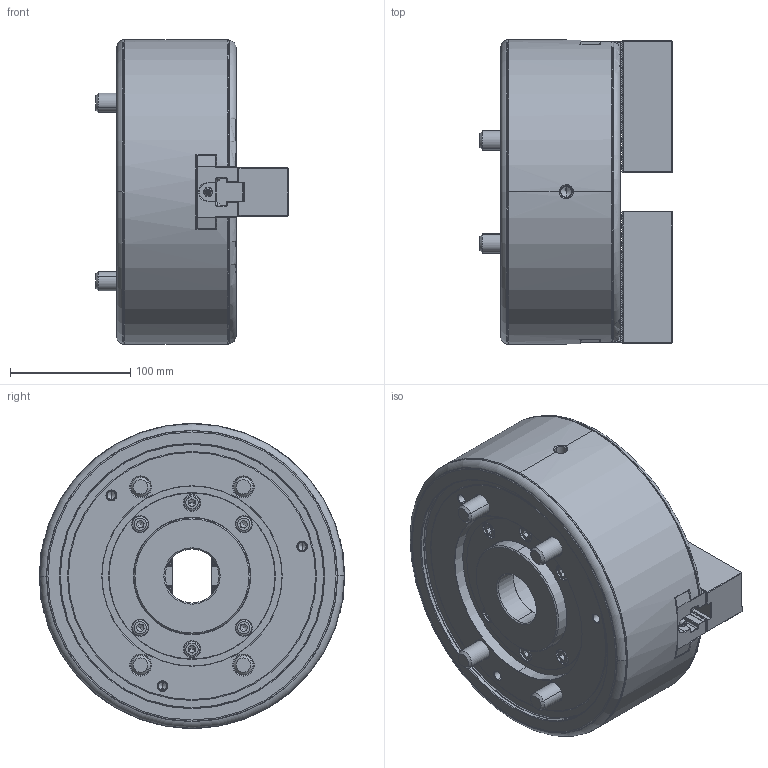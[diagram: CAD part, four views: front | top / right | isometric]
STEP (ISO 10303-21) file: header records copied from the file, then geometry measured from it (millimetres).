
FILE_DESCRIPTION (( 'STEP AP203' ), '1' );
FILE_NAME ('DEV-BRT10-HCL.STEP', '2024-03-12T08:26:55', ( '' ), ( '' ), 'SwSTEP 2.0', 'SolidWorks 2022', '' );
FILE_SCHEMA (( 'CONFIG_CONTROL_DESIGN' ));
Length unit declared in the file: millimetre
Products named in the file (9): BR10-Nishi02 ドローナット_ﾃﾞﾌｫﾙﾄ(外観用); DEV-BRT10-HCL; 61P848284-0(SJ10B1) 61P314663-3(SJ10A1T) ソフトジョー_]SJ10A1T-ﾃﾞﾌｫﾙﾄ-Design; Bアナツキボタン M6×10_デフォルト; BR10-Nishi05 Tナット_61P417262-1 B-210 Tﾅｯﾄ-ﾃﾞﾌｫﾙﾄ; Part3^DEV-BRT10-クミタテ; 61P806167-0(BBT210) 61P367863-0(BB210) カバー_BBT210-ﾃﾞﾌｫﾙﾄ; Bアナツキ M12×30; Bアナツキ M16×100・M16×120_M16×100-ﾃﾞﾌｫﾙﾄ
Assembly tree (19 placements, depth 2):
  DEV-BRT10-HCL
    BR10-Nishi02 ドローナット_ﾃﾞﾌｫﾙﾄ(外観用)
    61P848284-0(SJ10B1) 61P314663-3(SJ10A1T) ソフトジョー_]SJ10A1T-ﾃﾞﾌｫﾙﾄ-Design  x2
    BR10-Nishi05 Tナット_61P417262-1 B-210 Tﾅｯﾄ-ﾃﾞﾌｫﾙﾄ  x2
    61P806167-0(BBT210) 61P367863-0(BB210) カバー_BBT210-ﾃﾞﾌｫﾙﾄ
    Bアナツキ M12×30  x4
    Bアナツキボタン M6×10_デフォルト  x4
    Bアナツキ M16×100・M16×120_M16×100-ﾃﾞﾌｫﾙﾄ  x4
    Part3^DEV-BRT10-クミタテ
Bounding box: 160.2 x 254 x 254 mm (x, y, z)
Volume: 4629090.6 mm3; surface area: 427362.2 mm2
Topology: 19 solids, 23 shells, 3262 faces, 8837 edges, 5686 vertices
Faces by surface type: plane 2400, cylinder 377, cone 300, bspline 98, torus 77, sphere 10
Entity records: 82843 total; most frequent: CARTESIAN_POINT 18770, ORIENTED_EDGE 13500, DIRECTION 12297, EDGE_CURVE 6750, VECTOR 5339, LINE 5339, VERTEX_POINT 4383, AXIS2_PLACEMENT_3D 3479
